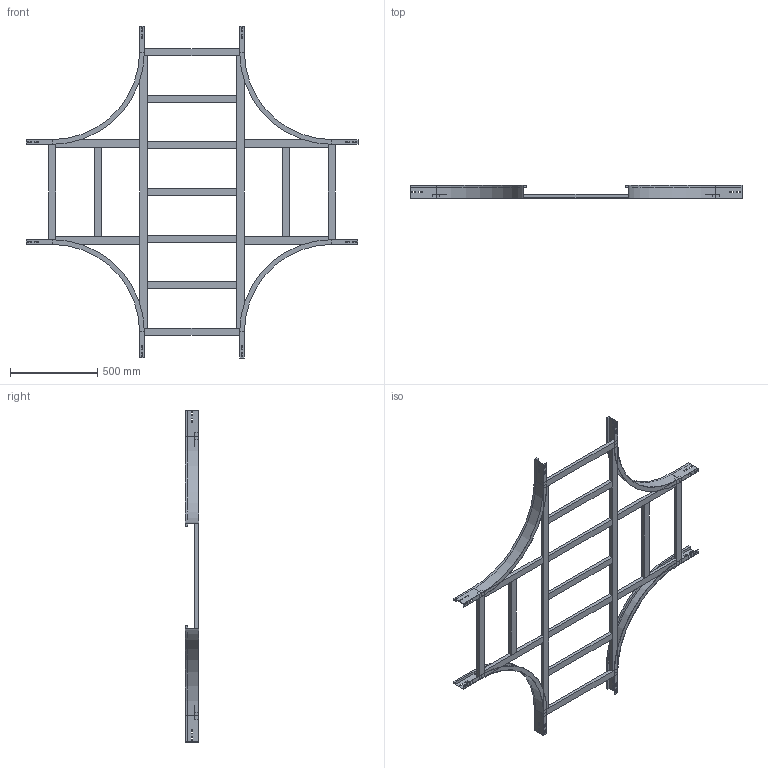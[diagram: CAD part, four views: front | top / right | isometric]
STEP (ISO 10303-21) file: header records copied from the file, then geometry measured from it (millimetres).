
FILE_DESCRIPTION (( 'STEP AP214' ), '1' );
FILE_NAME ('17B5C600.step', '2025-02-21T15:58:07', ( '' ), ( '' ), 'SwSTEP 2.0', 'SolidWorks 2023', '' );
FILE_SCHEMA (( 'AUTOMOTIVE_DESIGN' ));
Length unit declared in the file: millimetre
Products named in the file (7): TRAVERSINO_COPPIA_600; TRAVERSINO_LONG._R500+600; TRAVERSINO_INTERMEDIO_R500+600; TRAVERSINO_600; LONGH.INTERNO 90°_H75_R500; 17B5C600; TRAVERSINO_VERT_R500
Assembly tree (21 placements, depth 2):
  17B5C600
    LONGH.INTERNO 90°_H75_R500  x4
    TRAVERSINO_600  x4
    TRAVERSINO_LONG._R500+600  x2
    TRAVERSINO_INTERMEDIO_R500+600  x5
    TRAVERSINO_VERT_R500  x4
    TRAVERSINO_COPPIA_600  x2
Bounding box: 1900 x 75 x 1900 mm (x, y, z)
Volume: 10647959.8 mm3; surface area: 2393436.9 mm2
Topology: 21 solids, 21 shells, 334 faces, 812 edges, 520 vertices
Faces by surface type: plane 318, cylinder 16
Entity records: 2868 total; most frequent: CARTESIAN_POINT 460, DIRECTION 444, ORIENTED_EDGE 424, EDGE_CURVE 212, VECTOR 204, LINE 204, VERTEX_POINT 136, AXIS2_PLACEMENT_3D 120
